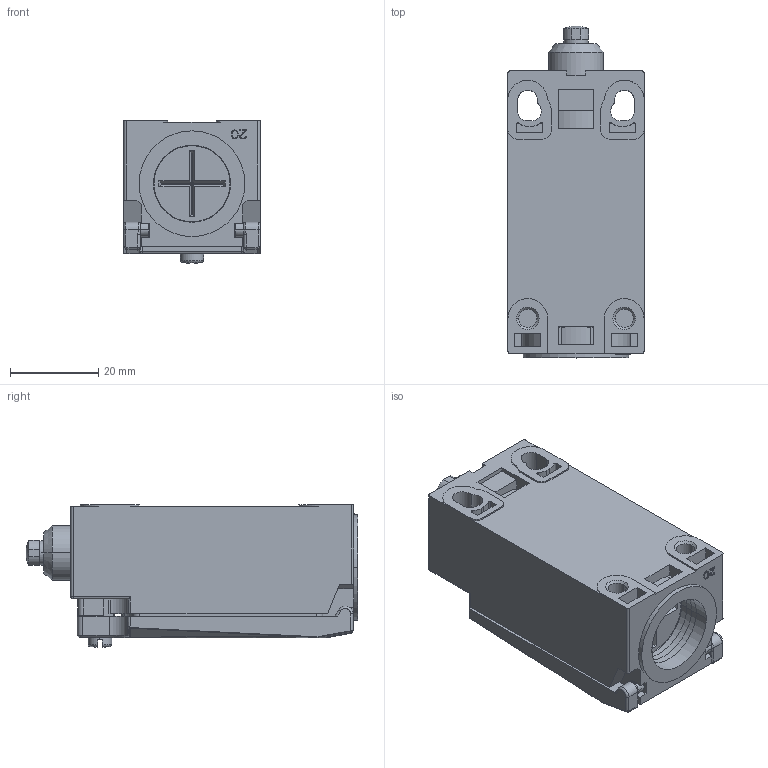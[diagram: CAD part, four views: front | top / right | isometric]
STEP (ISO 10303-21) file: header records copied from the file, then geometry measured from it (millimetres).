
FILE_DESCRIPTION(/* description */ (''),/* implementation_level */ '2;1');
FILE_NAME(/* name */ 'ALS3-P...A0.stp',/* time_stamp */ '2022-04-21T15:00:30+08:00',/* author */ (''),/* organization */ (''),/* preprocessor_version */ 'ST-DEVELOPER v16.7',/* originating_system */ 'SIEMENS PLM Software NX 12.0',/* authorisation */ '');
FILE_SCHEMA (('AUTOMOTIVE_DESIGN { 1 0 10303 214 3 1 1 1 }'));
Length unit declared in the file: millimetre
Products named in the file (8): M3X9; 20210810COVER_BODY; 卡片; 头部压杆; 基座头部密封圈; 基座; 尾塞; ALS3-P...A0_stp
Assembly tree (7 placements, depth 2):
  ALS3-P...A0_stp
    尾塞
    基座
    基座头部密封圈
    头部压杆
    卡片
    20210810COVER_BODY
    M3X9
Bounding box: 31 x 75.38 x 32.37 mm (x, y, z)
Volume: 24032.4 mm3; surface area: 25077.2 mm2
Topology: 7 solids, 7 shells, 1064 faces, 2872 edges, 1841 vertices
Faces by surface type: plane 553, cylinder 288, cone 90, torus 58, bspline 41, sphere 26, extrusion 8
Entity records: 35769 total; most frequent: CARTESIAN_POINT 8918, ORIENTED_EDGE 5692, DIRECTION 5434, EDGE_CURVE 2846, AXIS2_PLACEMENT_3D 1863, VERTEX_POINT 1841, VECTOR 1708, LINE 1700
